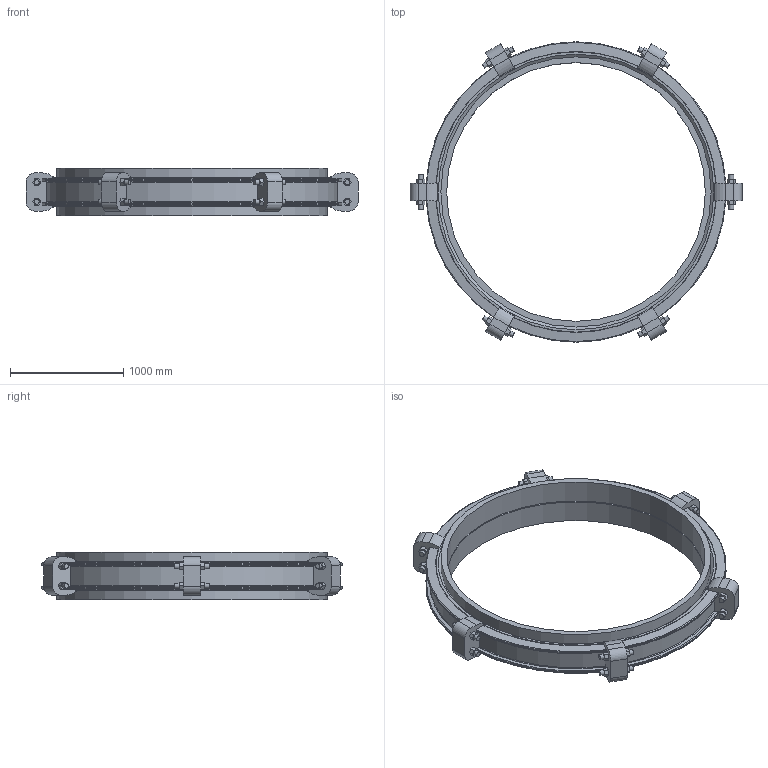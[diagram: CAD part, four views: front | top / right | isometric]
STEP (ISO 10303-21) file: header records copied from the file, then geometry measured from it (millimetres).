
FILE_DESCRIPTION(/* description */ ('VIC COUPLING FLEX STYLE W77 AGS VIC-RING ','CAx-IF Rec.Pracs.---Representation and Presentation of Product Manufacturing Information (PMI)---4.0---2014-10-13'),/* implementation_level */ '2;1');
FILE_NAME(/* name */ 'C:\Users\Vjadhav\AppData\Roaming\Autodesk\ApplicationPlugins\Victaulic.Temp\A52\Victaulic_Vic-Ring_Coupling Flexible_Style W77 (AGR)_94 (2350).stp',/* time_stamp */ '2021-12-20T11:08:05+06:00',/* author */ ('Vjadhav'),/* organization */ ('Victaulic'),/* preprocessor_version */ 'ST-DEVELOPER v17.2',/* originating_system */ 'Autodesk Inventor 2019',/* authorisation */ '');
FILE_SCHEMA (('AP242_MANAGED_MODEL_BASED_3D_ENGINEERING_MIM_LF { 1 0 10303 442 1 1 4 }'));
Length unit declared in the file: inch
Products named in the file (3): W77 VR-94.0; W77 VR-94.0_1; W77 VR-94.0_2
Assembly tree (3 placements, depth 2):
  W77 VR-94.0
    W77 VR-94.0_1
    W77 VR-94.0_2  x2
Bounding box: 2933.7 x 2654.3 x 417.83 mm (x, y, z)
Volume: 403767925.7 mm3; surface area: 15692416.1 mm2
Topology: 3 solids, 15 shells, 459 faces, 1177 edges, 796 vertices
Faces by surface type: plane 276, cylinder 109, torus 48, cone 26
Full cylindrical faces by diameter (mm): 44.45 x36, 47.625 x12, 2286 x2, 2368.55 x1, 2387.6 x4
Entity records: 15681 total; most frequent: CARTESIAN_POINT 3952, ORIENTED_EDGE 2334, DIRECTION 2265, EDGE_CURVE 1167, VERTEX_POINT 788, AXIS2_PLACEMENT_3D 781, LINE 703, VECTOR 703
